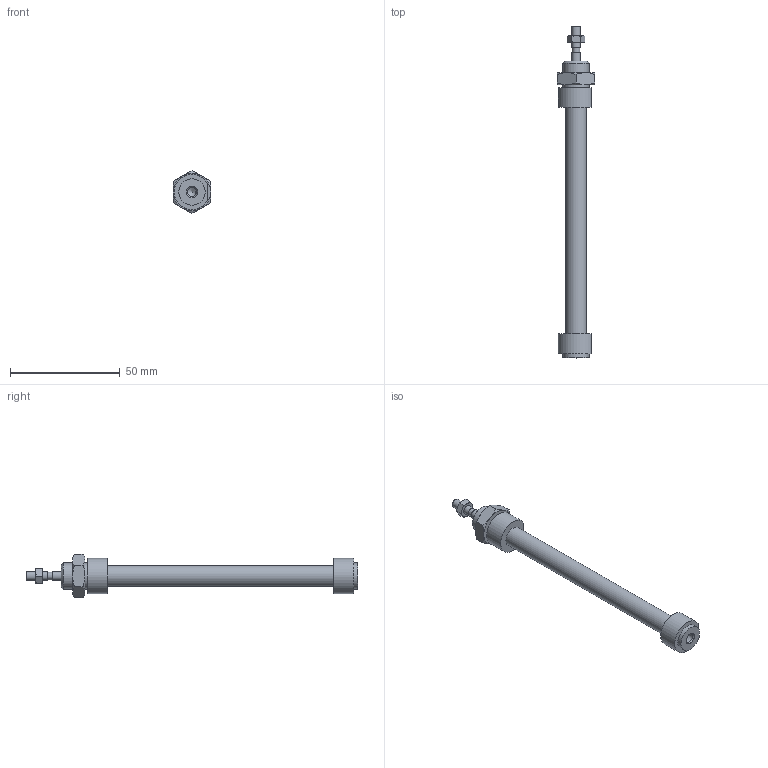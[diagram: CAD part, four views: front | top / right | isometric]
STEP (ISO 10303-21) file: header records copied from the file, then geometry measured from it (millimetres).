
FILE_DESCRIPTION((''),'2;1');
FILE_NAME('I:\Area Tecnica\Disegni\VARIE-3D\Componenti\1280\1281_##_####_#\1281_08_0075.iam.stp','2009-06-04T09:37:13',(''),(''),'Autodesk Inventor 2010','Autodesk Inventor 2010','');
FILE_SCHEMA(('AUTOMOTIVE_DESIGN { 1 0 10303 214 1 1 1 1 }'));
Length unit declared in the file: millimetre
Products named in the file (5): 1281_08_0075; C1281_08_75; S1280_08_75; 1200_08_05; 1200_08_06
Assembly tree (4 placements, depth 2):
  1281_08_0075
    C1281_08_75
    S1280_08_75
    1200_08_05
    1200_08_06
Bounding box: 17 x 151 x 19.63 mm (x, y, z)
Volume: 12854.8 mm3; surface area: 8791.6 mm2
Topology: 4 solids, 4 shells, 79 faces, 165 edges, 100 vertices
Faces by surface type: plane 29, cone 26, bspline 15, cylinder 9
Full cylindrical faces by diameter (mm): 3.5 x1, 4 x3, 9.2 x1, 12 x2
Entity records: 2316 total; most frequent: CARTESIAN_POINT 655, DIRECTION 294, ORIENTED_EDGE 274, EDGE_CURVE 137, AXIS2_PLACEMENT_3D 135, EDGE_LOOP 114, VERTEX_POINT 93, STYLED_ITEM 83
